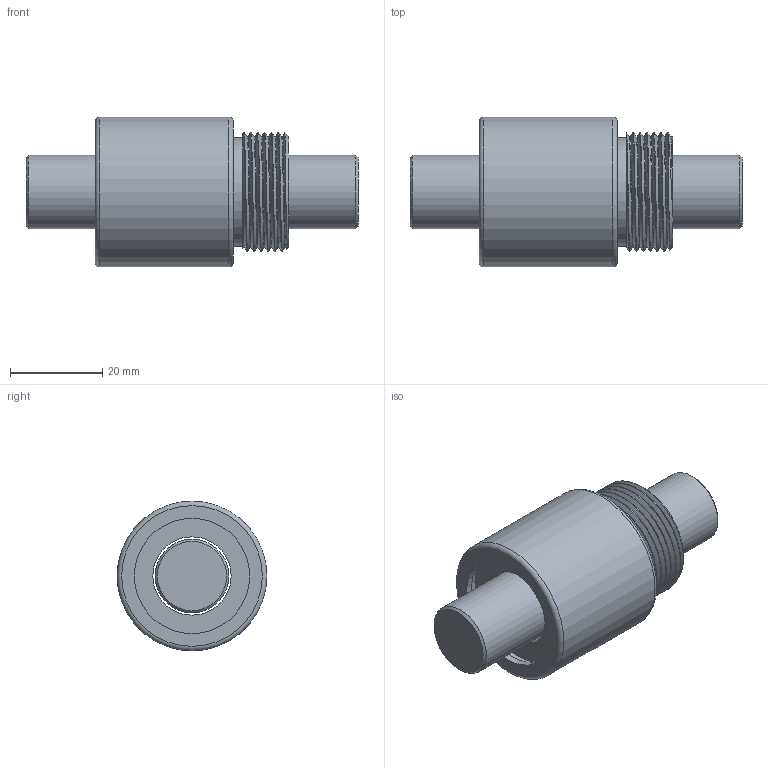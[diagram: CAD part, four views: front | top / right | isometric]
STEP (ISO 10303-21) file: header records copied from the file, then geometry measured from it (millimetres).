
FILE_DESCRIPTION(/* description */ (''),/* implementation_level */ '2;1');
FILE_NAME(/* name */ 'BSH1605',/* time_stamp */ '2007-10-26T09:00:14+08:00',/* author */ (''),/* organization */ (''),/* preprocessor_version */ 'ST-DEVELOPER v9',/* originating_system */ 'UGS - NX 3.0',/* authorisation */ '');
FILE_SCHEMA (('CONFIG_CONTROL_DESIGN'));
Length unit declared in the file: millimetre
Products named in the file (1): jaso37B0hu5h
Bounding box: 72 x 32.5 x 32.5 mm (x, y, z)
Volume: 34686.3 mm3; surface area: 12162.7 mm2
Topology: 2 solids, 2 shells, 23 faces, 39 edges, 24 vertices
Faces by surface type: plane 8, cylinder 8, cone 3, torus 2, bspline 2
Full cylindrical faces by diameter (mm): 16 x1, 17 x1, 23.6 x1, 25 x1, 26 x1, 32.5 x1
Entity records: 1644 total; most frequent: CARTESIAN_POINT 1159, DIRECTION 86, ORIENTED_EDGE 58, AXIS2_PLACEMENT_3D 43, EDGE_LOOP 39, EDGE_CURVE 29, FACE_BOUND 24, VERTEX_POINT 24
